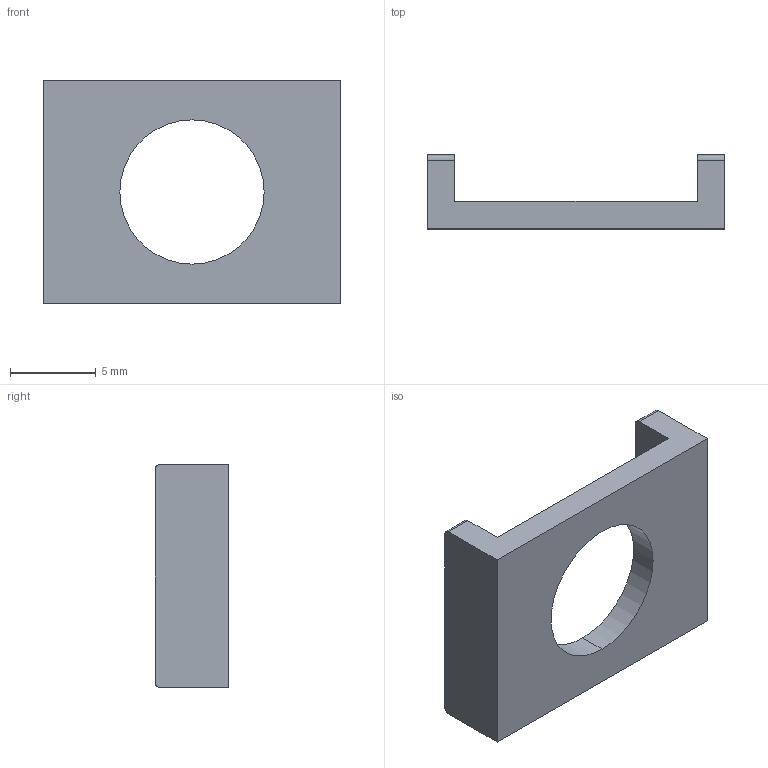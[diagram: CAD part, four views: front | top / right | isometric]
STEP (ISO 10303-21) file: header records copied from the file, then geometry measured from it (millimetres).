
FILE_DESCRIPTION (( 'STEP AP203' ), '1' );
FILE_NAME ('DHL08.STEP', '2018-11-09T00:57:25', ( '' ), ( '' ), 'SwSTEP 2.0', 'SolidWorks 2012', '' );
FILE_SCHEMA (( 'CONFIG_CONTROL_DESIGN' ));
Length unit declared in the file: millimetre
Products named in the file (1): DHL08
Bounding box: 17.3 x 4.3 x 13 mm (x, y, z)
Volume: 383.4 mm3; surface area: 634.8 mm2
Topology: 1 solids, 1 shells, 16 faces, 42 edges, 28 vertices
Faces by surface type: plane 10, cylinder 6
Entity records: 579 total; most frequent: DIRECTION 88, CARTESIAN_POINT 87, ORIENTED_EDGE 84, EDGE_CURVE 42, LINE 30, VECTOR 30, AXIS2_PLACEMENT_3D 29, VERTEX_POINT 28
